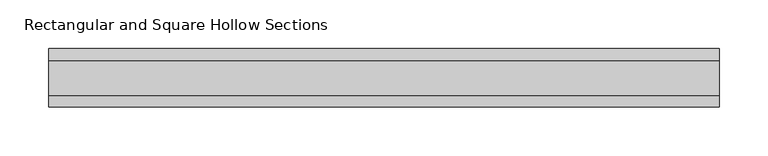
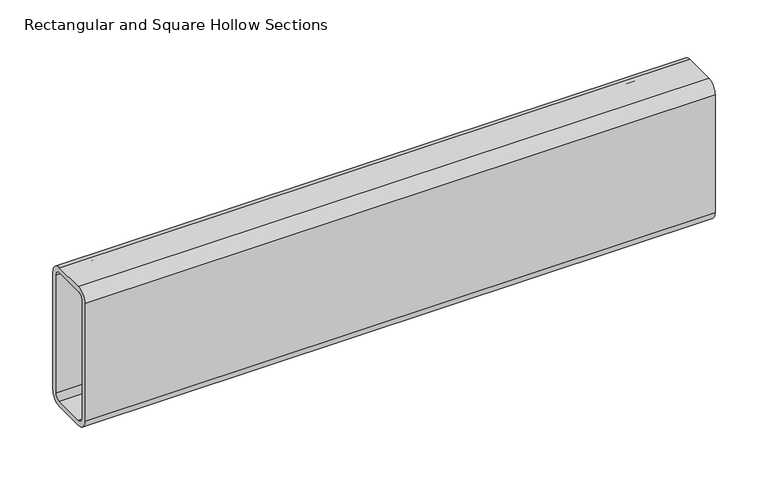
"""IFC4 building model written with IfcOpenShell, lengths in millimetres: beam geometry, Rectangular and Square Hollow Sections : TREC160x60x6."""

from ifc_helpers import new_model, si_unit, point, frame, frame_2d, origin, place, context, project, spatial, polyline, circle_curve, trimmed, segment, composite_curve, outline, extrude, source, transform, mapped, element, save


def rectangular_and_square_hollow_sections_276cb345(model_context):
    return source(origin(), model_context, "Body", "SweptSolid", [
        extrude(outline(composite_curve([segment(polyline([(30.0, 68.0), (30.0, -68.0)]), True, "CONTINUOUS"), segment(trimmed(circle_curve(frame_2d((18.0, -68.0)), 12.0), [point((30.0, -68.0))], [point((18.0, -80.0))], False, "CARTESIAN"), True, "CONTINUOUS"), segment(polyline([(18.0, -80.0), (-18.0, -80.0)]), True, "CONTINUOUS"), segment(trimmed(circle_curve(frame_2d((-18.0, -68.0)), 12.0), [point((-18.0, -80.0))], [point((-30.0, -68.0))], False, "CARTESIAN"), True, "CONTINUOUS"), segment(polyline([(-30.0, -68.0), (-30.0, 68.0)]), True, "CONTINUOUS"), segment(trimmed(circle_curve(frame_2d((-18.0, 68.0)), 12.0), [point((-30.0, 68.0))], [point((-18.0, 80.0))], False, "CARTESIAN"), True, "CONTINUOUS"), segment(polyline([(-18.0, 80.0), (18.0, 80.0)]), True, "CONTINUOUS"), segment(trimmed(circle_curve(frame_2d((18.0, 68.0)), 12.0), [point((18.0, 80.0))], [point((30.0, 68.0))], False, "CARTESIAN"), True, "CONTINUOUS")], self_intersect=False), holes=[composite_curve([segment(trimmed(circle_curve(frame_2d((-18.0, 68.0)), 6.0), [point((-18.0, 74.0))], [point((-24.0, 68.0))], True, "CARTESIAN"), True, "CONTINUOUS"), segment(polyline([(-24.0, 68.0), (-24.0, -68.0)]), True, "CONTINUOUS"), segment(trimmed(circle_curve(frame_2d((-18.0, -68.0)), 6.0), [point((-24.0, -68.0))], [point((-18.0, -74.0))], True, "CARTESIAN"), True, "CONTINUOUS"), segment(polyline([(-18.0, -74.0), (18.0, -74.0)]), True, "CONTINUOUS"), segment(trimmed(circle_curve(frame_2d((18.0, -68.0)), 6.0), [point((18.0, -74.0))], [point((24.0, -68.0))], True, "CARTESIAN"), True, "CONTINUOUS"), segment(polyline([(24.0, -68.0), (24.0, 68.0)]), True, "CONTINUOUS"), segment(trimmed(circle_curve(frame_2d((18.0, 68.0)), 6.0), [point((24.0, 68.0))], [point((18.0, 74.0))], True, "CARTESIAN"), True, "CONTINUOUS"), segment(polyline([(18.0, 74.0), (-18.0, 74.0)]), True, "CONTINUOUS")], self_intersect=False)]), frame((-499.5, 0.0, 0.0), z_axis=(1.0, 0.0, 0.0), x_axis=(0.0, 1.0, 0.0)), (0.0, 0.0, 1.0), 687.0),
    ])


if __name__ == "__main__":
    model = new_model("IFC4")
    model_context = context("Model", 3, world=origin())
    ifc_project = project(units=[si_unit("LENGTHUNIT", "METRE", prefix="MILLI")], contexts=[model_context])
    site = spatial("IfcSite", under=ifc_project)
    building = spatial("IfcBuilding", under=site)
    placement = place(None, origin())
    rectangular_and_square_hollow_sections_shape = rectangular_and_square_hollow_sections_276cb345(model_context)
    element("IfcBeam", 1, ObjectType="Rectangular and Square Hollow Sections : TREC160x60x6", at=placement, inside=building, context=model_context, shape_type="MappedRepresentation", body=[
        mapped(rectangular_and_square_hollow_sections_shape, transform((0.0, 0.0, 0.0), x_axis=(1.0, 0.0, 0.0), y_axis=(0.0, 1.0, 0.0), z_axis=(0.0, 0.0, 1.0))),
    ])
    save(model, "model.ifc")
